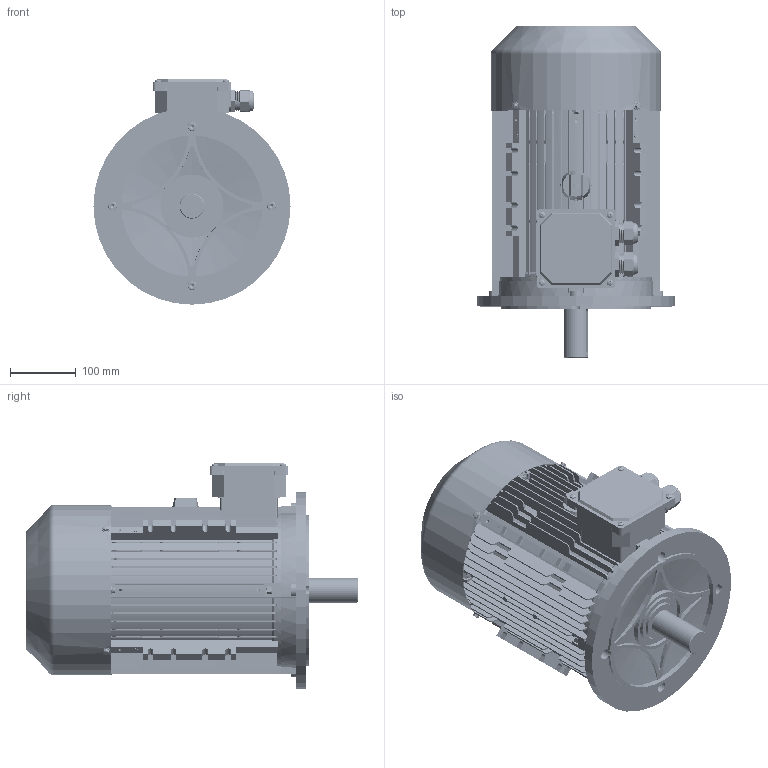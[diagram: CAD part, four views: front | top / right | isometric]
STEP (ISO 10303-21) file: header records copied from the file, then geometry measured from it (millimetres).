
FILE_DESCRIPTION (( 'STEP AP203' ), '1' );
FILE_NAME ('ME3-132M B5 3D.STEP', '2024-07-27T01:52:44', ( 'User' ), ( 'China' ), 'SwSTEP 2.0', 'SolidWorks 2018', '' );
FILE_SCHEMA (( 'CONFIG_CONTROL_DESIGN' ));
Length unit declared in the file: millimetre
Products named in the file (18): ME3-132瑞欶; ME3-132M蛌粣; hex flange bolts-heavy grade b gb_GB_FASTENER_BOLT_HFBB M5X10-S; MS112-132 諉盄碟釱; MS112-132諉盄碟裔; M24 蹟杶; cross recessed pan head screws gb_GB_CROSS_SCREWS_TYPE1 M5X6-6  H type-S; M24 蹟杶簸; 40X58X7蚐猾; spring lock washers--normal type gb_GB_FASTENER_WASHER_SW 8; ME3-132B5傷裔; hexagon socket head cap screws gb_GB_FASTENER_SCREWS_HSHCS M8X30-S; ME3-132M儂褲; ME3-132M B5  3D; hexagon socket head cap screws gb_GB_FASTENER_SCREWS_HSHCS M8X40-S; ME3-132 B3傷裔; hex nuts-style normal-grades ab gb_GB_HEXAGON_TYPE10 M8X1-S; deep groove ball bearings gb_Rolling bearings 6308 GB 276-94
Assembly tree (41 placements, depth 2):
  ME3-132M B5  3D
    ME3-132M儂褲
    ME3-132 B3傷裔
    deep groove ball bearings gb_Rolling bearings 6308 GB 276-94  x2
    ME3-132M蛌粣
    MS112-132 諉盄碟釱
    M24 蹟杶  x2
    M24 蹟杶簸  x2
    spring lock washers--normal type gb_GB_FASTENER_WASHER_SW 8  x4
    hexagon socket head cap screws gb_GB_FASTENER_SCREWS_HSHCS M8X30-S
    hexagon socket head cap screws gb_GB_FASTENER_SCREWS_HSHCS M8X40-S  x7
    hex nuts-style normal-grades ab gb_GB_HEXAGON_TYPE10 M8X1-S  x7
    ME3-132瑞欶
    hex flange bolts-heavy grade b gb_GB_FASTENER_BOLT_HFBB M5X10-S  x4
    MS112-132諉盄碟裔
    cross recessed pan head screws gb_GB_CROSS_SCREWS_TYPE1 M5X6-6  H type-S  x4
    40X58X7蚐猾
    ME3-132B5傷裔
Bounding box: 300 x 505.15 x 343 mm (x, y, z)
Volume: 3875260.5 mm3; surface area: 1882047.4 mm2
Topology: 43 solids, 44 shells, 6494 faces, 16320 edges, 9882 vertices
Faces by surface type: plane 2234, cone 2101, cylinder 1821, torus 224, sphere 68, bspline 46
Entity records: 136058 total; most frequent: CARTESIAN_POINT 34781, ORIENTED_EDGE 21264, DIRECTION 19821, EDGE_CURVE 10632, VERTEX_POINT 6802, AXIS2_PLACEMENT_3D 6619, LINE 6583, VECTOR 6583
